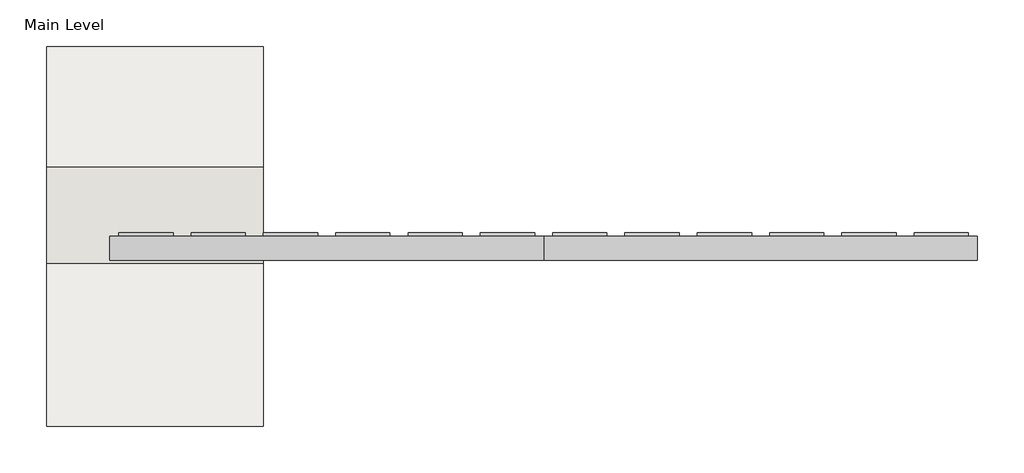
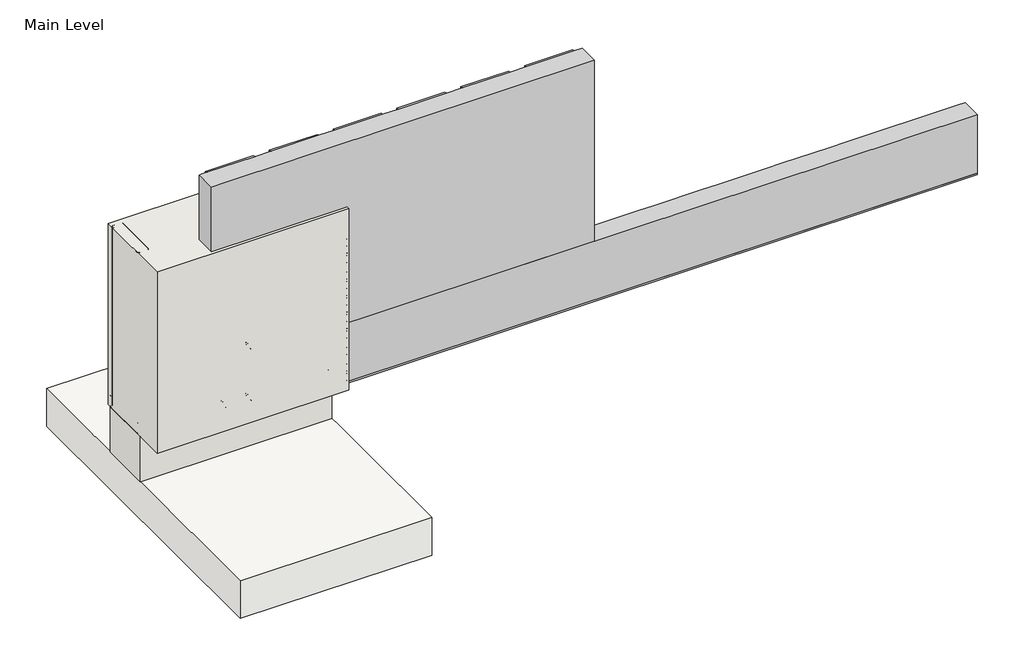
# One storey, incomplete: 18 proxies, 2 walls, 1 slab.
"""IFC4 building model written with IfcOpenShell, lengths in millimetres."""

from ifc_helpers import new_model, si_unit, frame, origin, origin_with_axes, place, context, project, spatial, polyline, outline, extrude, transform, mapped, element, save
from components import generic_models_31547c53, generic_models_0bbfdc8f, generic_models_1e1ad44f, generic_models_7dd17a53, generic_models_441de798, generic_models_9d0e7a2a, generic_models_8c792c9c, generic_models_03ec6e0e, proxy_215900e5, proxy_691c8b69, wood_blocking_c9818c35

model = new_model("IFC4")

# Units and contexts
model_context = context("Model", 3, world=origin())
ifc_project = project(units=[si_unit("LENGTHUNIT", "METRE", prefix="MILLI")], contexts=[model_context])

# Site, building, storey
site = spatial("IfcSite", under=ifc_project)
building = spatial("IfcBuilding", under=site)
storey = spatial("IfcBuildingStorey", under=building, Name="Main Level", Elevation=0.0)

# Proxies
placement = place(None, origin())
generic_models_shape = generic_models_31547c53(model_context)
element("IfcBuildingElementProxy", 1, Name="Durabond Generic Model Sealant Vent : Durabond Generic Model Sealant Vent", ObjectType="Durabond Generic Model Sealant Vent : Durabond Generic Model Sealant Vent", at=placement, inside=storey, context=model_context, shape_type="MappedRepresentation", body=[
    mapped(generic_models_shape, transform((26865.4101773, 546.8432813, 8.5594788), x_axis=(1.0, 0.0, 0.0), y_axis=(0.0, 0.08715574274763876, -0.9961946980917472), z_axis=(0.0, 0.9961946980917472, 0.08715574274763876))),
])
generic_models_2_shape = generic_models_0bbfdc8f(model_context)
generic_models_3_shape = generic_models_1e1ad44f(model_context)
generic_models_4_shape = generic_models_7dd17a53(model_context)
generic_models_5_shape = generic_models_441de798(model_context)
element("IfcBuildingElementProxy", 2, Name="CRAi Generic Model Mesh Piece Face Based : CRAi Generic Model Mesh Piece Face Based", ObjectType="CRAi Generic Model Mesh Piece Face Based : CRAi Generic Model Mesh Piece Face Based", at=placement, inside=storey, context=model_context, shape_type="MappedRepresentation", body=[
    mapped(generic_models_2_shape, transform((26933.6726773, 541.9066297, 261.6963215), x_axis=(-1.0, 0.0, 0.0), y_axis=(0.0, 0.0, -1.0), z_axis=(0.0, -1.0, 0.0))),
    mapped(generic_models_3_shape, transform((26933.6726773, 541.9066297, 261.6963215), x_axis=(-1.0, 0.0, 0.0), y_axis=(0.0, 0.0, -1.0), z_axis=(0.0, -1.0, 0.0))),
    mapped(generic_models_4_shape, transform((26933.6726773, 541.9066297, 261.6963215), x_axis=(-1.0, 0.0, 0.0), y_axis=(0.0, 0.0, -1.0), z_axis=(0.0, -1.0, 0.0))),
    mapped(generic_models_5_shape, transform((26933.6726773, 541.9066297, 261.6963215), x_axis=(-1.0, 0.0, 0.0), y_axis=(0.0, 0.0, -1.0), z_axis=(0.0, -1.0, 0.0))),
])
generic_models_6_shape = generic_models_9d0e7a2a(model_context)
element("IfcBuildingElementProxy", 3, Name="CRAi Generic Model Metal Stud Array : CRAi Generic Model Metal Stud Array", ObjectType="CRAi Generic Model Metal Stud Array : CRAi Generic Model Metal Stud Array", at=placement, inside=storey, context=model_context, shape_type="MappedRepresentation", body=[
    mapped(generic_models_6_shape, transform((26692.3726773, 719.7066297, 6.35), x_axis=(-1.0, 0.0, 0.0), y_axis=(0.0, -1.0, 0.0), z_axis=(0.0, 0.0, 1.0))),
])
generic_models_7_shape = generic_models_8c792c9c(model_context)
element("IfcBuildingElementProxy", 4, Name="Durabond Generic Model Screw w Standard Wall Plate : Durabond Generic Model Screw w Standard Wall Plate", ObjectType="Durabond Generic Model Screw w Standard Wall Plate : Durabond Generic Model Screw w Standard Wall Plate", at=placement, inside=storey, context=model_context, shape_type="MappedRepresentation", body=[
    mapped(generic_models_7_shape, transform((26781.2726773, 544.2878797, 85.242643), x_axis=(1.0, 0.0, 0.0), y_axis=(0.0, 0.0, 1.0), z_axis=(0.0, -1.0, 0.0))),
])
element("IfcBuildingElementProxy", 5, Name="Durabond Generic Model Screw w Standard Wall Plate : Durabond Generic Model Screw w Standard Wall Plate", ObjectType="Durabond Generic Model Screw w Standard Wall Plate : Durabond Generic Model Screw w Standard Wall Plate", at=placement, inside=storey, context=model_context, shape_type="MappedRepresentation", body=[
    mapped(generic_models_7_shape, transform((26781.2726773, 544.2878797, 256.692643), x_axis=(1.0, 0.0, 0.0), y_axis=(0.0, 0.0, 1.0), z_axis=(0.0, -1.0, 0.0))),
])
element("IfcBuildingElementProxy", 6, Name="Durabond Generic Model Screw w Standard Wall Plate : Durabond Generic Model Screw w Standard Wall Plate", ObjectType="Durabond Generic Model Screw w Standard Wall Plate : Durabond Generic Model Screw w Standard Wall Plate", at=placement, inside=storey, context=model_context, shape_type="MappedRepresentation", body=[
    mapped(generic_models_7_shape, transform((26703.4851773, 547.4628797, 85.242643), x_axis=(1.0, 0.0, 0.0), y_axis=(0.0, 0.0, 1.0), z_axis=(0.0, -1.0, 0.0))),
])
element("IfcBuildingElementProxy", 7, Name="Durabond Generic Model Screw w Standard Wall Plate : Durabond Generic Model Screw w Standard Wall Plate", ObjectType="Durabond Generic Model Screw w Standard Wall Plate : Durabond Generic Model Screw w Standard Wall Plate", at=placement, inside=storey, context=model_context, shape_type="MappedRepresentation", body=[
    mapped(generic_models_7_shape, transform((26716.1851773, 547.4628797, 256.692643), x_axis=(1.0, 0.0, 0.0), y_axis=(0.0, 0.0, 1.0), z_axis=(0.0, -1.0, 0.0))),
])
generic_models_8_shape = generic_models_03ec6e0e(model_context)
element("IfcBuildingElementProxy", 8, Name="CRAi Generic Model Drywall Screw : CRAi Generic Model Drywall Screw", ObjectType="CRAi Generic Model Drywall Screw : CRAi Generic Model Drywall Screw", at=placement, inside=storey, context=model_context, shape_type="MappedRepresentation", body=[
    mapped(generic_models_8_shape, transform((26508.2226773, 627.6316297, 25.4), x_axis=(1.0, 0.0, 0.0), y_axis=(0.0, 0.0, 1.0), z_axis=(0.0, -1.0, 0.0))),
])
element("IfcBuildingElementProxy", 9, Name="CRAi Generic Model Drywall Screw : CRAi Generic Model Drywall Screw", ObjectType="CRAi Generic Model Drywall Screw : CRAi Generic Model Drywall Screw", at=placement, inside=storey, context=model_context, shape_type="MappedRepresentation", body=[
    mapped(generic_models_8_shape, transform((26508.2226773, 627.6316297, 215.9), x_axis=(1.0, 0.0, 0.0), y_axis=(0.0, 0.0, 1.0), z_axis=(0.0, -1.0, 0.0))),
])
element("IfcBuildingElementProxy", 10, Name="CRAi Generic Model Drywall Screw : CRAi Generic Model Drywall Screw", ObjectType="CRAi Generic Model Drywall Screw : CRAi Generic Model Drywall Screw", at=placement, inside=storey, context=model_context, shape_type="MappedRepresentation", body=[
    mapped(generic_models_8_shape, transform((26508.2226773, 627.6316297, 406.4), x_axis=(1.0, 0.0, 0.0), y_axis=(0.0, 0.0, 1.0), z_axis=(0.0, -1.0, 0.0))),
])
element("IfcBuildingElementProxy", 11, Name="CRAi Generic Model Drywall Screw : CRAi Generic Model Drywall Screw", ObjectType="CRAi Generic Model Drywall Screw : CRAi Generic Model Drywall Screw", at=placement, inside=storey, context=model_context, shape_type="MappedRepresentation", body=[
    mapped(generic_models_8_shape, transform((26508.2226773, 627.6316297, 596.9), x_axis=(1.0, 0.0, 0.0), y_axis=(0.0, 0.0, 1.0), z_axis=(0.0, -1.0, 0.0))),
])
element("IfcBuildingElementProxy", 12, Name="CRAi Generic Model Drywall Screw : CRAi Generic Model Drywall Screw", ObjectType="CRAi Generic Model Drywall Screw : CRAi Generic Model Drywall Screw", at=placement, inside=storey, context=model_context, shape_type="MappedRepresentation", body=[
    mapped(generic_models_8_shape, transform((26876.5226773, 627.6316297, 25.4), x_axis=(1.0, 0.0, 0.0), y_axis=(0.0, 0.0, 1.0), z_axis=(0.0, -1.0, 0.0))),
])
element("IfcBuildingElementProxy", 13, Name="CRAi Generic Model Drywall Screw : CRAi Generic Model Drywall Screw", ObjectType="CRAi Generic Model Drywall Screw : CRAi Generic Model Drywall Screw", at=placement, inside=storey, context=model_context, shape_type="MappedRepresentation", body=[
    mapped(generic_models_8_shape, transform((26876.5226773, 627.6316297, 215.9), x_axis=(1.0, 0.0, 0.0), y_axis=(0.0, 0.0, 1.0), z_axis=(0.0, -1.0, 0.0))),
])
element("IfcBuildingElementProxy", 14, Name="CRAi Generic Model Drywall Screw : CRAi Generic Model Drywall Screw", ObjectType="CRAi Generic Model Drywall Screw : CRAi Generic Model Drywall Screw", at=placement, inside=storey, context=model_context, shape_type="MappedRepresentation", body=[
    mapped(generic_models_8_shape, transform((26876.5226773, 627.6316297, 406.4), x_axis=(1.0, 0.0, 0.0), y_axis=(0.0, 0.0, 1.0), z_axis=(0.0, -1.0, 0.0))),
])
element("IfcBuildingElementProxy", 15, Name="CRAi Generic Model Drywall Screw : CRAi Generic Model Drywall Screw", ObjectType="CRAi Generic Model Drywall Screw : CRAi Generic Model Drywall Screw", at=placement, inside=storey, context=model_context, shape_type="MappedRepresentation", body=[
    mapped(generic_models_8_shape, transform((26876.5226773, 627.6316297, 596.9), x_axis=(1.0, 0.0, 0.0), y_axis=(0.0, 0.0, 1.0), z_axis=(0.0, -1.0, 0.0))),
])
proxy_shape = proxy_215900e5(model_context)
element("IfcBuildingElementProxy", 16, Name="Durabond Generic Model Insulite Select Extruded Insulation Board : 3\"", ObjectType="Durabond Generic Model Insulite Select Extruded Insulation Board : 3\"", at=placement, inside=storey, context=model_context, shape_type="MappedRepresentation", body=[
    mapped(proxy_shape, transform((27276.5726773, 624.4566297, 523.392643), x_axis=(1.0, 0.0, 0.0), y_axis=(0.0, 0.0, 1.0), z_axis=(0.0, -1.0, 0.0))),
])
proxy_2_shape = proxy_691c8b69(model_context)
element("IfcBuildingElementProxy", 17, Name="Durabond Generic Model Insulite Select Extruded Vent Board : 3\"", ObjectType="Durabond Generic Model Insulite Select Extruded Vent Board : 3\"", at=placement, inside=storey, context=model_context, shape_type="MappedRepresentation", body=[
    mapped(proxy_2_shape, transform((27886.1726773, 624.4566297, 116.992643), x_axis=(1.0, 0.0, 0.0), y_axis=(0.0, 0.0, 1.0), z_axis=(0.0, -1.0, 0.0))),
])
wood_blocking_shape = wood_blocking_c9818c35(model_context)
element("IfcBuildingElementProxy", 18, Name="CRAi Generic Model Line Based Metal Framing Track : Wood Blocking", ObjectType="CRAi Generic Model Line Based Metal Framing Track : Wood Blocking", at=placement, inside=storey, context=model_context, shape_type="MappedRepresentation", body=[
    mapped(wood_blocking_shape, transform((26489.1726773, 643.5066297, 0.0), x_axis=(1.0, 0.0, 0.0), y_axis=(0.0, 1.0, 0.0), z_axis=(0.0, 0.0, 1.0))),
])

# Slab
element("IfcSlab", 19, ObjectType="CRAi Concrete Floor - 5\"", at=placement, inside=storey, context=model_context, shape_type="SweptSolid", body=[
    extrude(outline(polyline([(27098.7726773, 81.5316297), (26489.1726773, 81.5316297), (26489.1726773, 1148.3316297), (27098.7726773, 1148.3316297), (27098.7726773, 81.5316297)])), frame((0.0, 0.0, -279.4), z_axis=(0.0, 0.0, 1.0), x_axis=(1.0, 0.0, 0.0)), (0.0, 0.0, 1.0), 127.0),
])

# Walls
element("IfcWall", 20, ObjectType="189mm (7.5”) EIFS Field Applied on Mtl. Stud Layer - 50mm Grooved Insulation Board Metal Stud Wall(AirStop) 2", at=placement, inside=storey, context=model_context, shape_type="SweptSolid", body=[
    extrude(outline(polyline([(27098.7726773, 538.7316297), (26489.1726773, 538.7316297), (26489.1726773, 808.6066297), (27098.7726773, 808.6066297), (27098.7726773, 538.7316297)])), origin_with_axes(), (0.0, 0.0, 1.0), 609.6),
])
element("IfcWall", 21, ObjectType="Durabond 6\" Concrete Wall", at=placement, inside=storey, context=model_context, shape_type="SweptSolid", body=[
    extrude(outline(polyline([(27098.7726773, 630.8066297), (26489.1726773, 630.8066297), (26489.1726773, 795.9066297), (27098.7726773, 795.9066297), (27098.7726773, 630.8066297)])), frame((0.0, 0.0, -152.4), z_axis=(0.0, 0.0, 1.0), x_axis=(1.0, 0.0, 0.0)), (0.0, 0.0, 1.0), 152.4),
])

save(model, "model.ifc")
